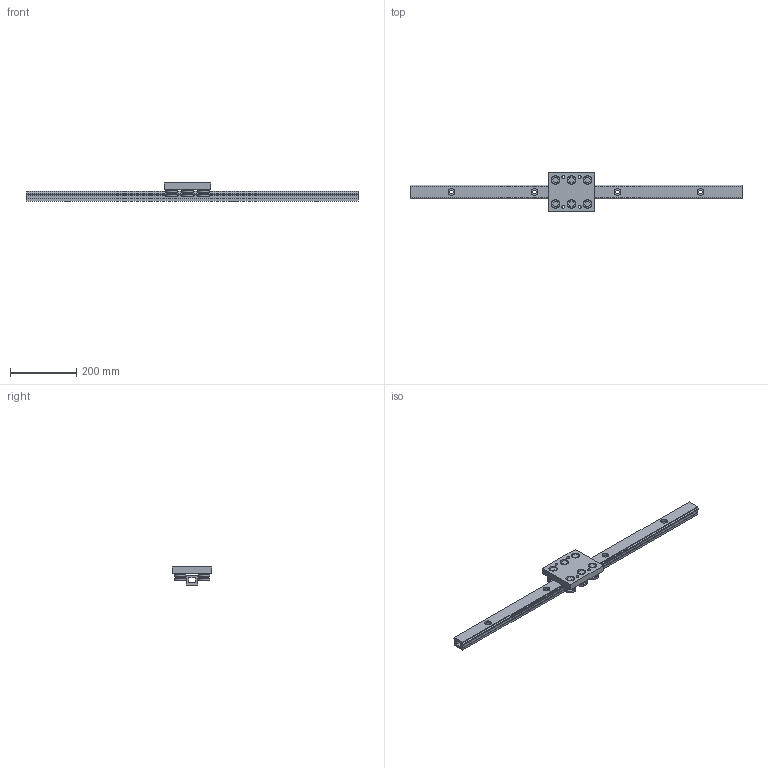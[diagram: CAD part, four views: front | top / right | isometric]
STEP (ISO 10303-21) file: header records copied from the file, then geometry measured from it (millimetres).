
FILE_DESCRIPTION((''),'2;1');
FILE_NAME('D:\製品 (図面)\カタログ用3D\リニアガイド関連\STEP形式\SPDR\SPDR43L.stp','2010-06-02T17:10:45',('Tsuchiya'),(''),'Autodesk Inventor 10','Autodesk Inventor 10','');
FILE_SCHEMA(('AUTOMOTIVE_DESIGN { 1 0 10303 214 1 1 1 1 }'));
Length unit declared in the file: millimetre
Products named in the file (3): SPDR43L; SPDR43L1; SPDR43L2
Assembly tree (2 placements, depth 2):
  SPDR43L
    SPDR43L1
    SPDR43L2
Bounding box: 1000 x 120 x 54.3 mm (x, y, z)
Volume: 1136546.2 mm3; surface area: 288950.1 mm2
Topology: 2 solids, 2 shells, 174 faces, 389 edges, 248 vertices
Faces by surface type: plane 94, bspline 28, cylinder 28, cone 24
Full cylindrical faces by diameter (mm): 8.376 x2, 15 x6, 18 x6, 35 x12
Entity records: 4755 total; most frequent: CARTESIAN_POINT 1081, DIRECTION 730, ORIENTED_EDGE 624, EDGE_CURVE 312, EDGE_LOOP 298, AXIS2_PLACEMENT_3D 267, VERTEX_POINT 240, VECTOR 196
